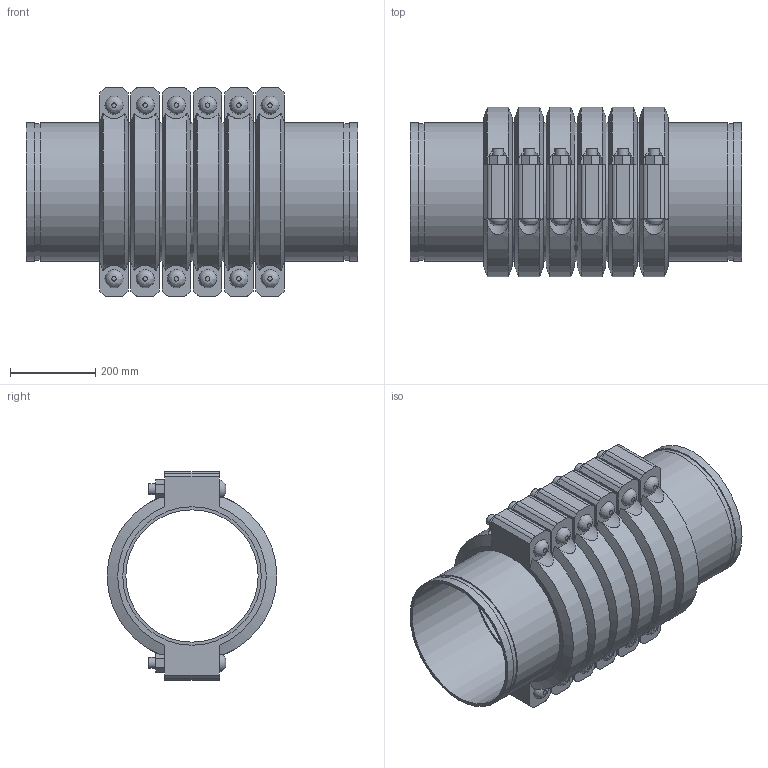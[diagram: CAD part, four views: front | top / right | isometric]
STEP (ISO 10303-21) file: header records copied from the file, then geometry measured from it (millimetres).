
FILE_DESCRIPTION(/* description */ ('VIC SS EXPANSION JOINT 6 COUPLINGS NEUTRAL STYLE 155P (OGS) (POTABLE WATER) ','CAx-IF Rec.Pracs.---Representation and Presentation of Product Manufacturing Information (PMI)---4.0---2014-10-13'),/* implementation_level */ '2;1');
FILE_NAME(/* name */ 'C:\Users\kkamble\AppData\Roaming\Autodesk\ApplicationPlugins\Victaulic.Temp\A292\Victaulic_SS_Expansion Joint_Neutral_6 Couplings_Style 155P (OGS)-Potable Water_6 Coup_Neut_12 (300).stp',/* time_stamp */ '2021-07-16T16:36:25+05:00',/* author */ ('kkamble'),/* organization */ ('Victaulic'),/* preprocessor_version */ 'ST-DEVELOPER v17.2',/* originating_system */ 'Autodesk Inventor 2019',/* authorisation */ '');
FILE_SCHEMA (('AP242_MANAGED_MODEL_BASED_3D_ENGINEERING_MIM_LF { 1 0 10303 442 1 1 4 }'));
Length unit declared in the file: inch
Products named in the file (4): 155-12.0; Nipple-12.0; Nipple-12.0_1; 077-12.0
Assembly tree (13 placements, depth 2):
  155-12.0
    Nipple-12.0  x2
    Nipple-12.0_1  x5
    077-12.0  x6
Bounding box: 774.7 x 397 x 488.95 mm (x, y, z)
Volume: 25306717.7 mm3; surface area: 3598334.2 mm2
Topology: 13 solids, 25 shells, 450 faces, 1080 edges, 756 vertices
Faces by surface type: plane 258, cylinder 156, cone 24, bspline 12
Full cylindrical faces by diameter (mm): 25.4 x24, 27.432 x12, 309.677 x7, 314.96 x6, 318.287 x14, 323.85 x33
Entity records: 3073 total; most frequent: CARTESIAN_POINT 661, DIRECTION 481, ORIENTED_EDGE 410, EDGE_CURVE 205, AXIS2_PLACEMENT_3D 196, VERTEX_POINT 146, EDGE_LOOP 111, CIRCLE 96
